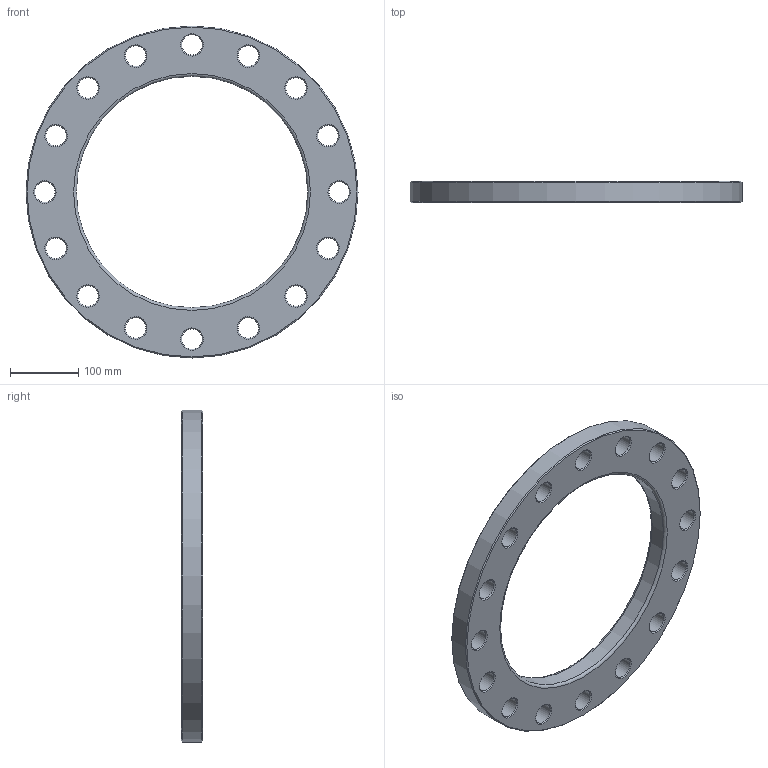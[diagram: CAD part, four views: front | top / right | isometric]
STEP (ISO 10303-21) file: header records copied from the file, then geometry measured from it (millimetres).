
FILE_DESCRIPTION(/* description */ ('Unknown'),/* implementation_level */ '2;1');
FILE_NAME(/* name */ 'FZ315H',/* time_stamp */ '2021-03-15T12:57:59+01:00',/* author */ ('Unknown'),/* organization */ ('Unknown'),/* preprocessor_version */ 'ST-DEVELOPER v16.7',/* originating_system */ 'Solid Edge',/* authorisation */ 'Unknown');
FILE_SCHEMA (('AUTOMOTIVE_DESIGN {1 0 10303 214 3 1 1}'));
Length unit declared in the file: millimetre
Products named in the file (1): FZ315H
Bounding box: 485 x 31 x 485 mm (x, y, z)
Volume: 2580706.4 mm3; surface area: 285443.8 mm2
Topology: 1 solids, 1 shells, 56 faces, 174 edges, 120 vertices
Faces by surface type: cone 34, cylinder 18, plane 2, torus 2
Full cylindrical faces by diameter (mm): 30 x16, 338 x1, 485 x1
Entity records: 1382 total; most frequent: DIRECTION 258, CARTESIAN_POINT 201, ORIENTED_EDGE 144, EDGE_LOOP 144, FACE_BOUND 144, AXIS2_PLACEMENT_3D 129, EDGE_CURVE 72, VERTEX_POINT 72
